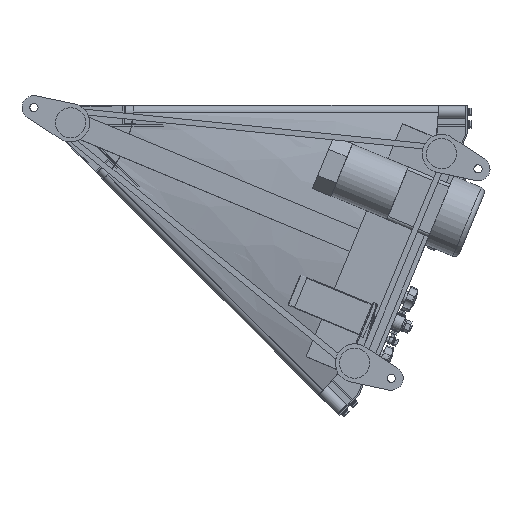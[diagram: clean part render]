
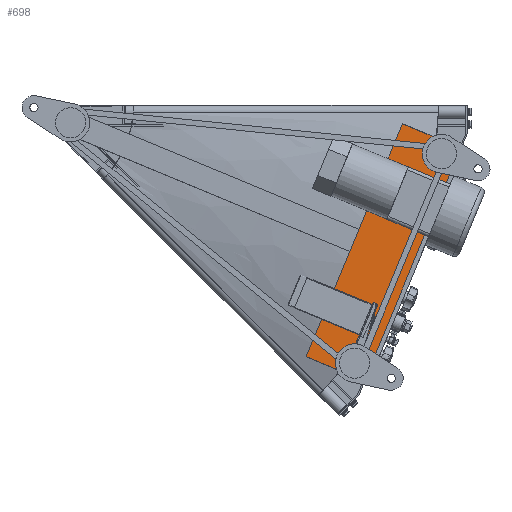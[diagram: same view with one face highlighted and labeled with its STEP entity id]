
A CAD part, front view. The second image highlights one B-rep face of the part: STEP entity #698.
In plain terms, the highlighted planar face has unit normal (0, -1, 0).
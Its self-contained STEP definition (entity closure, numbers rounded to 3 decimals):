
#396 = VERTEX_POINT ( 'NONE', #29626 ) ;
#571 = VECTOR ( 'NONE', #13105, 1000. ) ;
#698 = ADVANCED_FACE ( 'NONE', ( #7061 ), #3267, .F. ) ;
#919 = CARTESIAN_POINT ( 'NONE',  ( 439.159, -167.5, -398.384 ) ) ;
#1257 = ORIENTED_EDGE ( 'NONE', *, *, #13975, .F. ) ;
#2160 = LINE ( 'NONE', #5327, #22809 ) ;
#2387 = LINE ( 'NONE', #7641, #12708 ) ;
#2558 = VECTOR ( 'NONE', #32665, 1000. ) ;
#2717 = EDGE_CURVE ( 'NONE', #28011, #396, #2160, .T. ) ;
#3267 = PLANE ( 'NONE',  #7281 ) ;
#4145 = LINE ( 'NONE', #22460, #2558 ) ;
#4586 = CARTESIAN_POINT ( 'NONE',  ( 543.027, -167.5, -408.936 ) ) ;
#4670 = CARTESIAN_POINT ( 'NONE',  ( 543.027, -167.5, -408.936 ) ) ;
#5007 = EDGE_CURVE ( 'NONE', #10825, #20070, #11052, .T. ) ;
#5073 = DIRECTION ( 'NONE',  ( 0.383, 0., 0.924 ) ) ;
#5327 = CARTESIAN_POINT ( 'NONE',  ( 503.831, -167.5, -425.172 ) ) ;
#5852 = DIRECTION ( 'NONE',  ( 0.078, 0., 0.997 ) ) ;
#6528 = DIRECTION ( 'NONE',  ( 0.383, 0., -0.924 ) ) ;
#6864 = VERTEX_POINT ( 'NONE', #22354 ) ;
#6982 = EDGE_CURVE ( 'NONE', #396, #20543, #7327, .T. ) ;
#7061 = FACE_OUTER_BOUND ( 'NONE', #9956, .T. ) ;
#7281 = AXIS2_PLACEMENT_3D ( 'NONE', #16163, #16049, #5852 ) ;
#7327 = LINE ( 'NONE', #919, #571 ) ;
#7641 = CARTESIAN_POINT ( 'NONE',  ( 439.159, -167.5, -398.384 ) ) ;
#7858 = ORIENTED_EDGE ( 'NONE', *, *, #13029, .F. ) ;
#9406 = ORIENTED_EDGE ( 'NONE', *, *, #20900, .F. ) ;
#9458 = VECTOR ( 'NONE', #6528, 1000. ) ;
#9956 = EDGE_LOOP ( 'NONE', ( #16136, #1257, #9406, #22871, #29988, #7858 ) ) ;
#10358 = DIRECTION ( 'NONE',  ( -0.924, 0., -0.383 ) ) ;
#10825 = VERTEX_POINT ( 'NONE', #19258 ) ;
#11052 = LINE ( 'NONE', #16282, #9458 ) ;
#11382 = VECTOR ( 'NONE', #24893, 1000. ) ;
#11573 = CARTESIAN_POINT ( 'NONE',  ( 673.14, -167.5, -94.817 ) ) ;
#12708 = VECTOR ( 'NONE', #5073, 1000. ) ;
#13029 = EDGE_CURVE ( 'NONE', #20070, #28011, #25646, .T. ) ;
#13105 = DIRECTION ( 'NONE',  ( -0.924, 0., 0.383 ) ) ;
#13975 = EDGE_CURVE ( 'NONE', #6864, #10825, #4145, .T. ) ;
#16049 = DIRECTION ( 'NONE',  ( 0., 1., 0. ) ) ;
#16136 = ORIENTED_EDGE ( 'NONE', *, *, #5007, .F. ) ;
#16163 = CARTESIAN_POINT ( 'NONE',  ( 13.567, -167.5, -5.62 ) ) ;
#16282 = CARTESIAN_POINT ( 'NONE',  ( 673.14, -167.5, -94.817 ) ) ;
#19258 = CARTESIAN_POINT ( 'NONE',  ( 656.904, -167.5, -55.62 ) ) ;
#20070 = VERTEX_POINT ( 'NONE', #11573 ) ;
#20543 = VERTEX_POINT ( 'NONE', #29050 ) ;
#20900 = EDGE_CURVE ( 'NONE', #20543, #6864, #2387, .T. ) ;
#22354 = CARTESIAN_POINT ( 'NONE',  ( 592.232, -167.5, -28.832 ) ) ;
#22460 = CARTESIAN_POINT ( 'NONE',  ( 592.232, -167.5, -28.832 ) ) ;
#22809 = VECTOR ( 'NONE', #10358, 1000. ) ;
#22871 = ORIENTED_EDGE ( 'NONE', *, *, #6982, .F. ) ;
#24893 = DIRECTION ( 'NONE',  ( -0.383, 0., -0.924 ) ) ;
#25646 = LINE ( 'NONE', #4586, #11382 ) ;
#28011 = VERTEX_POINT ( 'NONE', #4670 ) ;
#29050 = CARTESIAN_POINT ( 'NONE',  ( 439.159, -167.5, -398.384 ) ) ;
#29626 = CARTESIAN_POINT ( 'NONE',  ( 503.831, -167.5, -425.172 ) ) ;
#29988 = ORIENTED_EDGE ( 'NONE', *, *, #2717, .F. ) ;
#32665 = DIRECTION ( 'NONE',  ( 0.924, 0., -0.383 ) ) ;
